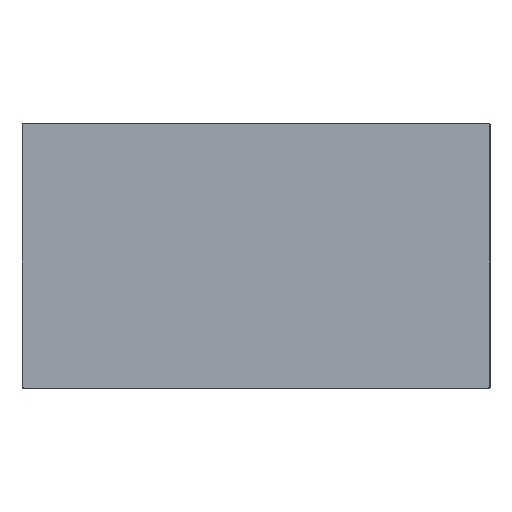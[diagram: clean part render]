
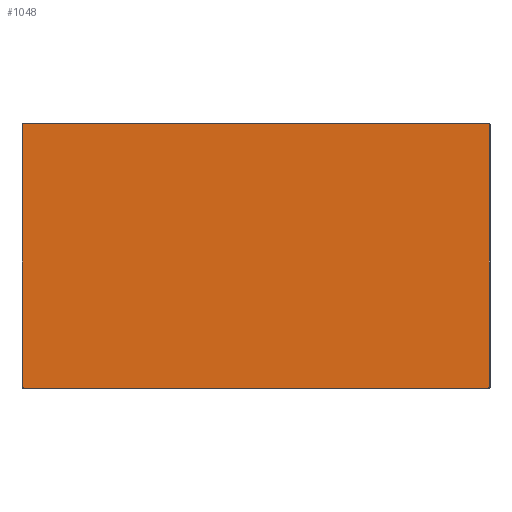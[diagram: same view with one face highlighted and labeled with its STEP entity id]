
A CAD part, top view. The second image highlights one B-rep face of the part: STEP entity #1048.
In plain terms, the highlighted planar face has unit normal (0, 0, 1).
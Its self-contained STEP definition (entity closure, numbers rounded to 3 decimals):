
#98=PLANE('',#3567);
#261=LINE('',#4794,#642);
#264=LINE('',#4801,#645);
#265=LINE('',#4818,#646);
#268=LINE('',#4825,#649);
#642=VECTOR('',#3820,1.);
#645=VECTOR('',#3827,1.);
#646=VECTOR('',#3848,1.);
#649=VECTOR('',#3855,1.);
#1048=ADVANCED_FACE('',(#1232),#98,.T.);
#1232=FACE_OUTER_BOUND('',#1402,.T.);
#1402=EDGE_LOOP('',(#1664,#1665,#1666,#1667,#1668,#1669,#1670,#1671));
#1664=ORIENTED_EDGE('',*,*,#2897,.T.);
#1665=ORIENTED_EDGE('',*,*,#2891,.T.);
#1666=ORIENTED_EDGE('',*,*,#2893,.T.);
#1667=ORIENTED_EDGE('',*,*,#2899,.T.);
#1668=ORIENTED_EDGE('',*,*,#2905,.T.);
#1669=ORIENTED_EDGE('',*,*,#2911,.T.);
#1670=ORIENTED_EDGE('',*,*,#2909,.T.);
#1671=ORIENTED_EDGE('',*,*,#2903,.T.);
#2562=VERTEX_POINT('',#4783);
#2565=VERTEX_POINT('',#4788);
#2567=VERTEX_POINT('',#4793);
#2568=VERTEX_POINT('',#4798);
#2571=VERTEX_POINT('',#4805);
#2572=VERTEX_POINT('',#4810);
#2575=VERTEX_POINT('',#4817);
#2576=VERTEX_POINT('',#4822);
#2891=EDGE_CURVE('',#2562,#2565,#3392,.T.);
#2893=EDGE_CURVE('',#2565,#2567,#261,.T.);
#2897=EDGE_CURVE('',#2568,#2562,#264,.T.);
#2899=EDGE_CURVE('',#2567,#2571,#3396,.T.);
#2903=EDGE_CURVE('',#2572,#2568,#3400,.T.);
#2905=EDGE_CURVE('',#2571,#2575,#265,.T.);
#2909=EDGE_CURVE('',#2576,#2572,#268,.T.);
#2911=EDGE_CURVE('',#2575,#2576,#3404,.T.);
#3392=CIRCLE('',#3513,2.);
#3396=CIRCLE('',#3520,2.);
#3400=CIRCLE('',#3525,2.);
#3404=CIRCLE('',#3532,2.);
#3513=AXIS2_PLACEMENT_3D('',#4789,#3814,#3815);
#3520=AXIS2_PLACEMENT_3D('',#4806,#3832,#3833);
#3525=AXIS2_PLACEMENT_3D('',#4813,#3842,#3843);
#3532=AXIS2_PLACEMENT_3D('',#4828,#3860,#3861);
#3567=AXIS2_PLACEMENT_3D('',#4895,#3946,#3947);
#3814=DIRECTION('',(0.,0.,1.));
#3815=DIRECTION('',(1.,0.,0.));
#3820=DIRECTION('',(1.,0.,0.));
#3827=DIRECTION('',(0.,-1.,0.));
#3832=DIRECTION('',(0.,0.,1.));
#3833=DIRECTION('',(1.,0.,0.));
#3842=DIRECTION('',(0.,0.,1.));
#3843=DIRECTION('',(1.,0.,0.));
#3848=DIRECTION('',(0.,1.,0.));
#3855=DIRECTION('',(-1.,0.,0.));
#3860=DIRECTION('',(0.,0.,1.));
#3861=DIRECTION('',(1.,0.,0.));
#3946=DIRECTION('',(0.,0.,1.));
#3947=DIRECTION('',(1.,0.,0.));
#4783=CARTESIAN_POINT('',(-29.46,-29.904,19.631));
#4788=CARTESIAN_POINT('',(-27.46,-31.904,19.631));
#4789=CARTESIAN_POINT('',(-27.46,-29.904,19.631));
#4793=CARTESIAN_POINT('',(866.54,-31.904,19.631));
#4794=CARTESIAN_POINT('',(419.54,-31.904,19.631));
#4798=CARTESIAN_POINT('',(-29.46,474.096,19.631));
#4801=CARTESIAN_POINT('',(-29.46,222.096,19.631));
#4805=CARTESIAN_POINT('',(868.54,-29.904,19.631));
#4806=CARTESIAN_POINT('',(866.54,-29.904,19.631));
#4810=CARTESIAN_POINT('',(-27.46,476.096,19.631));
#4813=CARTESIAN_POINT('',(-27.46,474.096,19.631));
#4817=CARTESIAN_POINT('',(868.54,474.096,19.631));
#4818=CARTESIAN_POINT('',(868.54,222.096,19.631));
#4822=CARTESIAN_POINT('',(866.54,476.096,19.631));
#4825=CARTESIAN_POINT('',(419.54,476.096,19.631));
#4828=CARTESIAN_POINT('',(866.54,474.096,19.631));
#4895=CARTESIAN_POINT('',(419.54,222.096,19.631));
